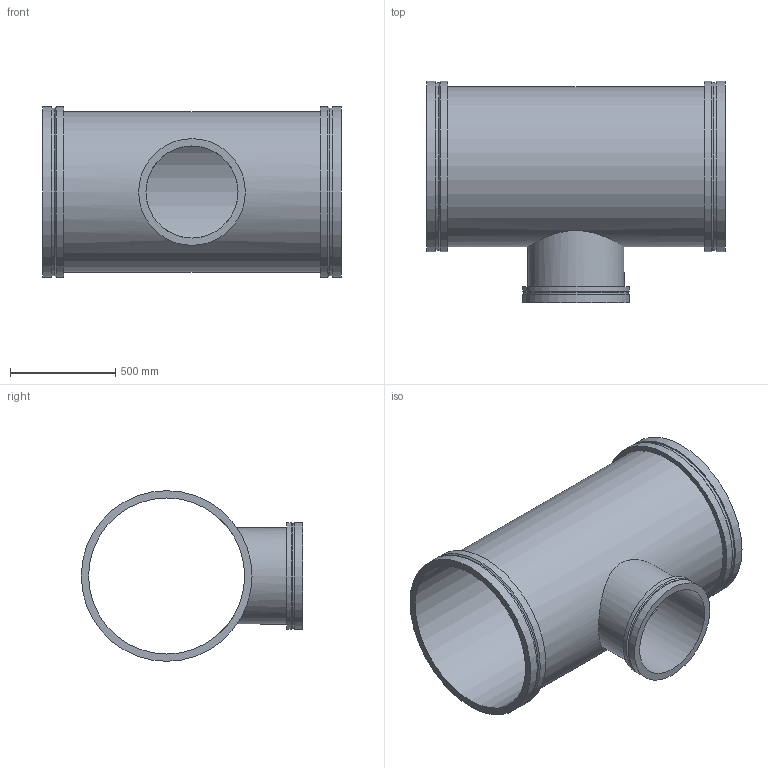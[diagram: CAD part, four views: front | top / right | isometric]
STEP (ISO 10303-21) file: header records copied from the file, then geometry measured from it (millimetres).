
FILE_DESCRIPTION(/* description */ ('VIC REDUCING TEE No W025 VR','CAx-IF Rec.Pracs.---Representation and Presentation of Product Manufacturing Information (PMI)---4.0---2014-10-13'),/* implementation_level */ '2;1');
FILE_NAME(/* name */ 'C:\Users\kkamble\AppData\Roaming\Autodesk\ApplicationPlugins\Back Up\Victaulic_Vic-Ring_Tee Reducing_No W25 VR (AGR)\Victaulic_Vic-Ring_Tee Reducing_No W25 VR (AGR)_30.0x18.0 (750x450).stp',/* time_stamp */ '2020-09-10T11:54:13+05:00',/* author */ ('mchristi'),/* organization */ ('Victaulic'),/* preprocessor_version */ 'ST-DEVELOPER v17.2',/* originating_system */ 'Autodesk Inventor 2019',/* authorisation */ '');
FILE_SCHEMA (('AP242_MANAGED_MODEL_BASED_3D_ENGINEERING_MIM_LF { 1 0 10303 442 1 1 4 }'));
Length unit declared in the file: inch
Products named in the file (1): W25 VR-30.0x18.0
Bounding box: 1422.4 x 1054.1 x 812.8 mm (x, y, z)
Volume: 49530646.8 mm3; surface area: 7755930.2 mm2
Topology: 1 solids, 1 shells, 25 faces, 68 edges, 52 vertices
Faces by surface type: cylinder 13, plane 9, cone 3
Full cylindrical faces by diameter (mm): 438.15 x1, 457.2 x1, 495.3 x1, 508 x2, 742.95 x1, 762 x1, 798.322 x2, 812.8 x4
Entity records: 1211 total; most frequent: CARTESIAN_POINT 367, DIRECTION 190, ORIENTED_EDGE 136, AXIS2_PLACEMENT_3D 87, EDGE_CURVE 68, VERTEX_POINT 52, CIRCLE 48, EDGE_LOOP 36
